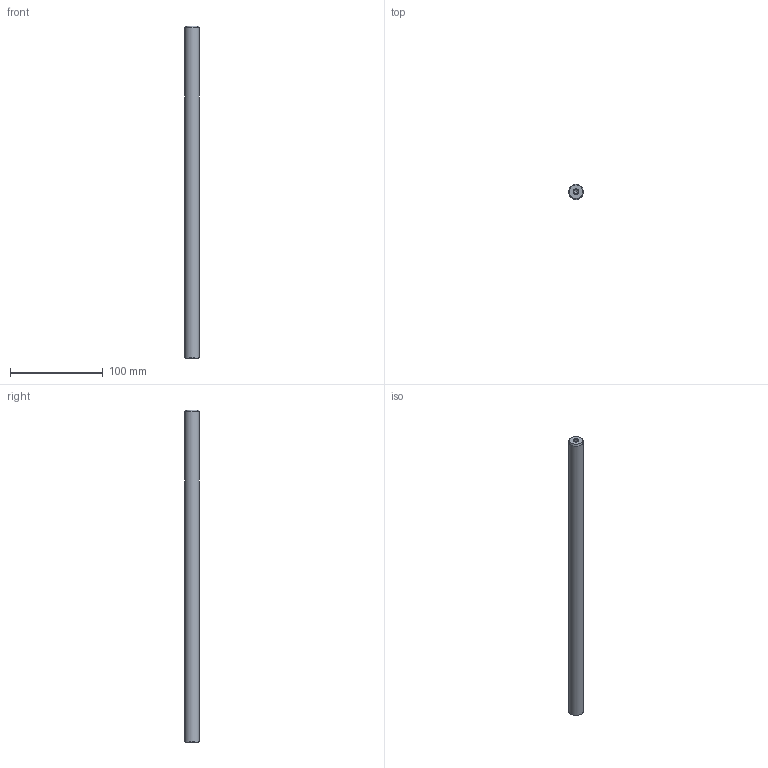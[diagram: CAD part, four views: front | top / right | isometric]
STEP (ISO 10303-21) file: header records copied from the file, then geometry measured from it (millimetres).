
FILE_DESCRIPTION( ( 'STEP AP214' ), '1' );
FILE_NAME( 'U:/Etudes/Top Solid/BIBLIO_Fournisseur/Colonnes UG/Ø16x357.step', '2004-12-22T12:38:01', ( ' ' ), ( ' ' ), 'XStep 1.0', ' ', ' ' );
FILE_SCHEMA( ( 'automotive_design' ) );
Length unit declared in the file: metre
Products named in the file (1): 1
Bounding box: 16 x 16 x 357 mm (x, y, z)
Volume: 71122.7 mm3; surface area: 18776.8 mm2
Topology: 1 solids, 1 shells, 13 faces, 27 edges, 16 vertices
Faces by surface type: cone 6, cylinder 5, plane 2
Full cylindrical faces by diameter (mm): 4.918 x4, 16 x1
Entity records: 382 total; most frequent: DIRECTION 52, CARTESIAN_POINT 40, AXIS2_PLACEMENT_3D 26, EDGE_LOOP 24, ORIENTED_EDGE 24, FACE_OUTER_BOUND 18, VERTEX_POINT 14, STYLED_ITEM 13
